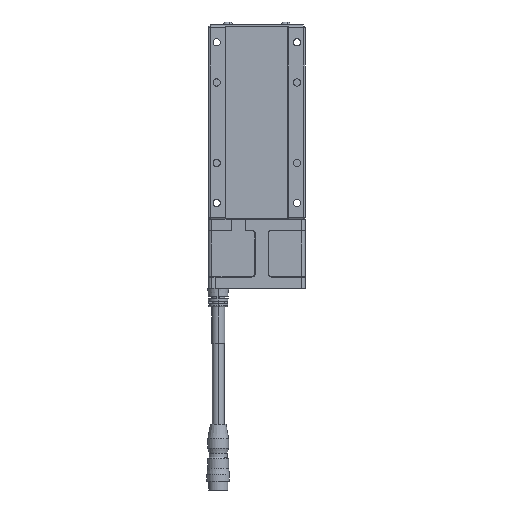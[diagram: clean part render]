
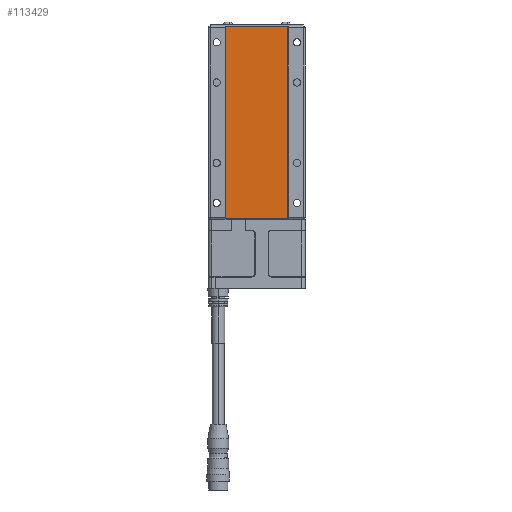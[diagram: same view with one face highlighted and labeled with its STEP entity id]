
A CAD part, front view. The second image highlights one B-rep face of the part: STEP entity #113429.
In plain terms, the highlighted planar face has unit normal (0, -1, 0).
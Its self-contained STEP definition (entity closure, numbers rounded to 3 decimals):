
#2542 = ORIENTED_EDGE ( 'NONE', *, *, #45216, .T. ) ;
#2866 = VERTEX_POINT ( 'NONE', #57086 ) ;
#4453 = CARTESIAN_POINT ( 'NONE',  ( 26.298, -5.179, 42.908 ) ) ;
#5275 = EDGE_CURVE ( 'NONE', #92083, #35957, #44143, .T. ) ;
#7273 = VECTOR ( 'NONE', #100590, 1000. ) ;
#7319 = ORIENTED_EDGE ( 'NONE', *, *, #101083, .T. ) ;
#10831 = CARTESIAN_POINT ( 'NONE',  ( 26.298, -5.179, 42.908 ) ) ;
#15935 = VECTOR ( 'NONE', #77600, 1000. ) ;
#23235 = LINE ( 'NONE', #4453, #50777 ) ;
#25187 = EDGE_CURVE ( 'NONE', #35957, #105831, #23235, .T. ) ;
#29420 = CARTESIAN_POINT ( 'NONE',  ( -12.302, -5.179, 42.908 ) ) ;
#35376 = CARTESIAN_POINT ( 'NONE',  ( 26.298, -5.179, -76.692 ) ) ;
#35957 = VERTEX_POINT ( 'NONE', #48995 ) ;
#43504 = VECTOR ( 'NONE', #65186, 1000. ) ;
#43566 = CARTESIAN_POINT ( 'NONE',  ( 26.298, -5.179, -76.692 ) ) ;
#44143 = LINE ( 'NONE', #43566, #15935 ) ;
#45216 = EDGE_CURVE ( 'NONE', #2866, #92083, #82227, .T. ) ;
#48995 = CARTESIAN_POINT ( 'NONE',  ( 26.298, -5.179, -76.692 ) ) ;
#50777 = VECTOR ( 'NONE', #94253, 1000. ) ;
#56922 = AXIS2_PLACEMENT_3D ( 'NONE', #35376, #62283, #89301 ) ;
#57086 = CARTESIAN_POINT ( 'NONE',  ( -12.302, -5.179, 42.908 ) ) ;
#61144 = FACE_OUTER_BOUND ( 'NONE', #113377, .T. ) ;
#62283 = DIRECTION ( 'NONE',  ( 0., 1., 0. ) ) ;
#65186 = DIRECTION ( 'NONE',  ( 0., 0., -1. ) ) ;
#77600 = DIRECTION ( 'NONE',  ( 1., 0., 0. ) ) ;
#82227 = LINE ( 'NONE', #29420, #43504 ) ;
#87450 = ORIENTED_EDGE ( 'NONE', *, *, #25187, .T. ) ;
#89301 = DIRECTION ( 'NONE',  ( 1., 0., 0. ) ) ;
#91240 = LINE ( 'NONE', #10831, #7273 ) ;
#92083 = VERTEX_POINT ( 'NONE', #112848 ) ;
#94253 = DIRECTION ( 'NONE',  ( 0., 0., 1. ) ) ;
#97110 = ORIENTED_EDGE ( 'NONE', *, *, #5275, .T. ) ;
#100590 = DIRECTION ( 'NONE',  ( -1., 0., 0. ) ) ;
#101083 = EDGE_CURVE ( 'NONE', #105831, #2866, #91240, .T. ) ;
#105831 = VERTEX_POINT ( 'NONE', #107142 ) ;
#106895 = PLANE ( 'NONE',  #56922 ) ;
#107142 = CARTESIAN_POINT ( 'NONE',  ( 26.298, -5.179, 42.908 ) ) ;
#112848 = CARTESIAN_POINT ( 'NONE',  ( -12.302, -5.179, -76.692 ) ) ;
#113377 = EDGE_LOOP ( 'NONE', ( #87450, #7319, #2542, #97110 ) ) ;
#113429 = ADVANCED_FACE ( 'NONE', ( #61144 ), #106895, .F. ) ;
